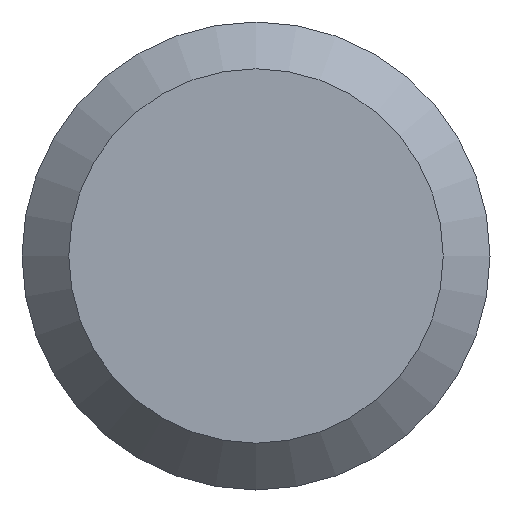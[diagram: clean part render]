
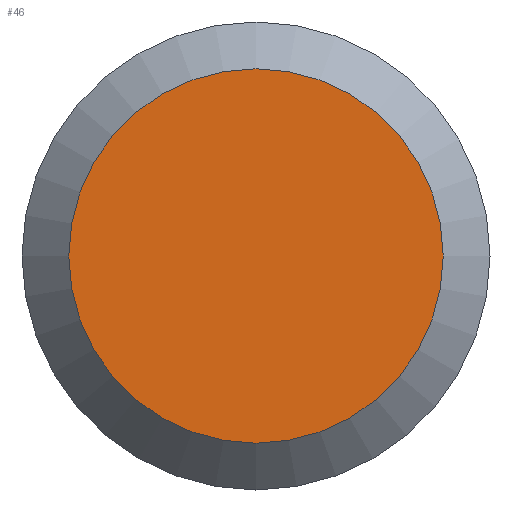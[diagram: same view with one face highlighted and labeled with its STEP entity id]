
A CAD part, left-side view. The second image highlights one B-rep face of the part: STEP entity #46.
In plain terms, the highlighted planar face has unit normal (-1, 0, 0).
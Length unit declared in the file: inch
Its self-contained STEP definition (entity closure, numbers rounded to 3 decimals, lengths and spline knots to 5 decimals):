
#4 = EDGE_CURVE ( 'NONE', #133, #133, #240, .T. ) ;
#40 = CARTESIAN_POINT ( 'NONE',  ( 0., 0., 0. ) ) ;
#46 = ADVANCED_FACE ( 'NONE', ( #103 ), #147, .F. ) ;
#49 = ORIENTED_EDGE ( 'NONE', *, *, #4, .T. ) ;
#50 = DIRECTION ( 'NONE',  ( -1., 0., 0. ) ) ;
#56 = AXIS2_PLACEMENT_3D ( 'NONE', #130, #207, #210 ) ;
#80 = AXIS2_PLACEMENT_3D ( 'NONE', #40, #50, #198 ) ;
#103 = FACE_OUTER_BOUND ( 'NONE', #249, .T. ) ;
#130 = CARTESIAN_POINT ( 'NONE',  ( 0., 0.174, 0. ) ) ;
#133 = VERTEX_POINT ( 'NONE', #200 ) ;
#147 = PLANE ( 'NONE',  #56 ) ;
#198 = DIRECTION ( 'NONE',  ( 0., 0., -1. ) ) ;
#200 = CARTESIAN_POINT ( 'NONE',  ( 0., 0., -0.1392 ) ) ;
#207 = DIRECTION ( 'NONE',  ( 1., 0., 0. ) ) ;
#210 = DIRECTION ( 'NONE',  ( 0., 0., -1. ) ) ;
#240 = CIRCLE ( 'NONE', #80, 0.1392 ) ;
#249 = EDGE_LOOP ( 'NONE', ( #49 ) ) ;
